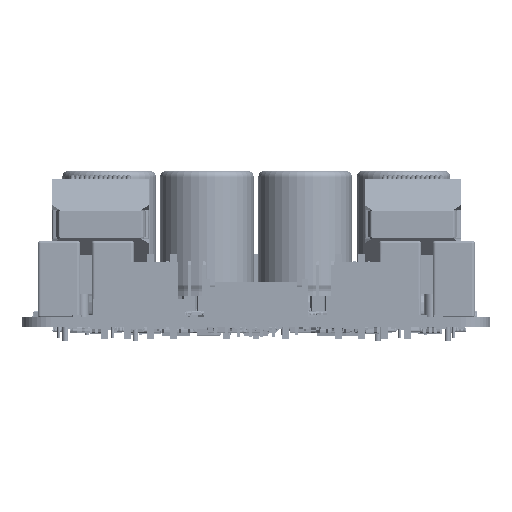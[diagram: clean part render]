
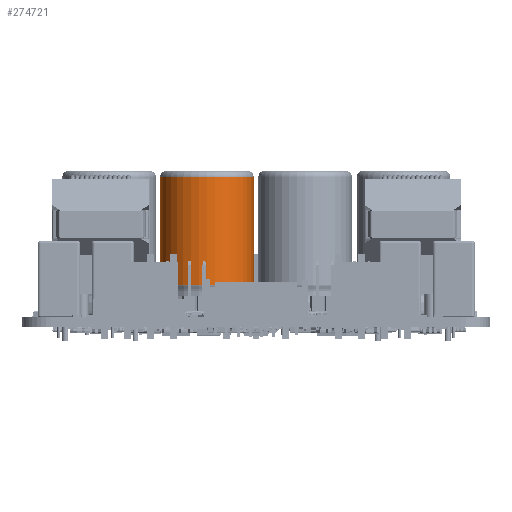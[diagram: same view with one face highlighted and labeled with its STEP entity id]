
A CAD part, front view. The second image highlights one B-rep face of the part: STEP entity #274721.
In plain terms, the highlighted cylindrical face has radius 8 mm (diameter 16 mm), a full revolution.
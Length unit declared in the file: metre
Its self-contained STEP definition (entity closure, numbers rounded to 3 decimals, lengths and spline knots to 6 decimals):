
#63422=CYLINDRICAL_SURFACE('',#294573,0.008);
#111447=ORIENTED_EDGE('',*,*,#175758,.T.);
#111448=ORIENTED_EDGE('',*,*,#175759,.F.);
#175758=EDGE_CURVE('',#209995,#209995,#225268,.T.);
#175759=EDGE_CURVE('',#209996,#209996,#225269,.T.);
#209995=VERTEX_POINT('',#430849);
#209996=VERTEX_POINT('',#430851);
#225268=CIRCLE('',#294574,0.008);
#225269=CIRCLE('',#294575,0.008);
#239440=EDGE_LOOP('',(#111447));
#239441=EDGE_LOOP('',(#111448));
#257623=FACE_BOUND('',#239440,.T.);
#257624=FACE_BOUND('',#239441,.T.);
#274721=ADVANCED_FACE('',(#257623,#257624),#63422,.T.);
#294573=AXIS2_PLACEMENT_3D('',#430847,#346071,#346072);
#294574=AXIS2_PLACEMENT_3D('',#430848,#346073,#346074);
#294575=AXIS2_PLACEMENT_3D('',#430850,#346075,#346076);
#346071=DIRECTION('',(0.,0.,-1.));
#346072=DIRECTION('',(0.,-1.,0.));
#346073=DIRECTION('',(0.,0.,1.));
#346074=DIRECTION('',(0.,1.,0.));
#346075=DIRECTION('',(0.,0.,1.));
#346076=DIRECTION('',(0.,1.,0.));
#430847=CARTESIAN_POINT('',(0.0251,0.0816,0.014138));
#430848=CARTESIAN_POINT('',(0.0251,0.0816,0.007194));
#430849=CARTESIAN_POINT('',(0.0251,0.0896,0.007194));
#430850=CARTESIAN_POINT('',(0.0251,0.0816,0.025638));
#430851=CARTESIAN_POINT('',(0.0251,0.0896,0.025638));
